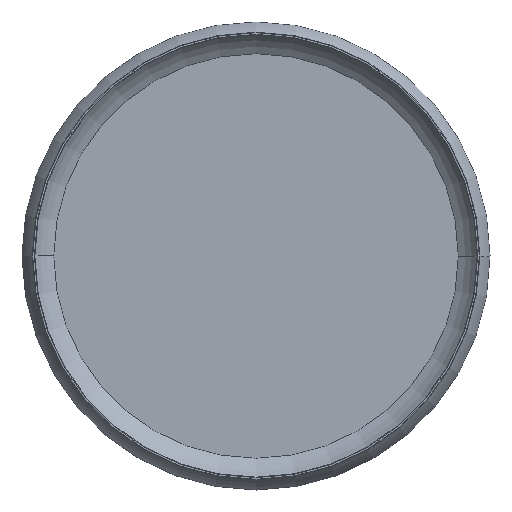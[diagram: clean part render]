
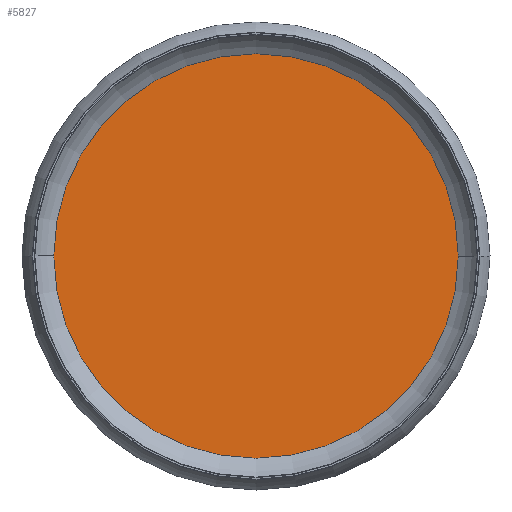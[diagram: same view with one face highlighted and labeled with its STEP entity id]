
A CAD part, left-side view. The second image highlights one B-rep face of the part: STEP entity #5827.
In plain terms, the highlighted planar face has unit normal (-1, 0, 0).
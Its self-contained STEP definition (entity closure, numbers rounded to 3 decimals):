
#129=CARTESIAN_POINT('',(16.2,0.,0.));
#130=DIRECTION('',(-1.,0.,0.));
#131=DIRECTION('',(0.,-1.,0.));
#132=AXIS2_PLACEMENT_3D('',#129,#130,#131);
#137=CARTESIAN_POINT('',(16.2,0.,0.));
#138=DIRECTION('',(-1.,0.,0.));
#139=DIRECTION('',(0.,1.,0.));
#140=AXIS2_PLACEMENT_3D('',#137,#138,#139);
#5211=CARTESIAN_POINT('',(16.2,-178.5,0.));
#5212=CARTESIAN_POINT('',(16.2,178.5,0.));
#5213=VERTEX_POINT('',#5211);
#5214=VERTEX_POINT('',#5212);
#5818=CARTESIAN_POINT('',(16.2,0.,0.));
#5819=DIRECTION('',(-1.,0.,0.));
#5820=DIRECTION('',(0.,-1.,0.));
#5821=AXIS2_PLACEMENT_3D('',#5818,#5819,#5820);
#5822=PLANE('',#5821);
#5823=ORIENTED_EDGE('',*,*,#5784,.F.);
#5824=ORIENTED_EDGE('',*,*,#5805,.F.);
#5825=EDGE_LOOP('',(#5823,#5824));
#5826=FACE_OUTER_BOUND('',#5825,.F.);
#5827=ADVANCED_FACE('',(#5826),#5822,.T.);
#133=CIRCLE('',#132,178.5);
#141=CIRCLE('',#140,178.5);
#5784=EDGE_CURVE('',#5213,#5214,#133,.T.);
#5805=EDGE_CURVE('',#5214,#5213,#141,.T.);
